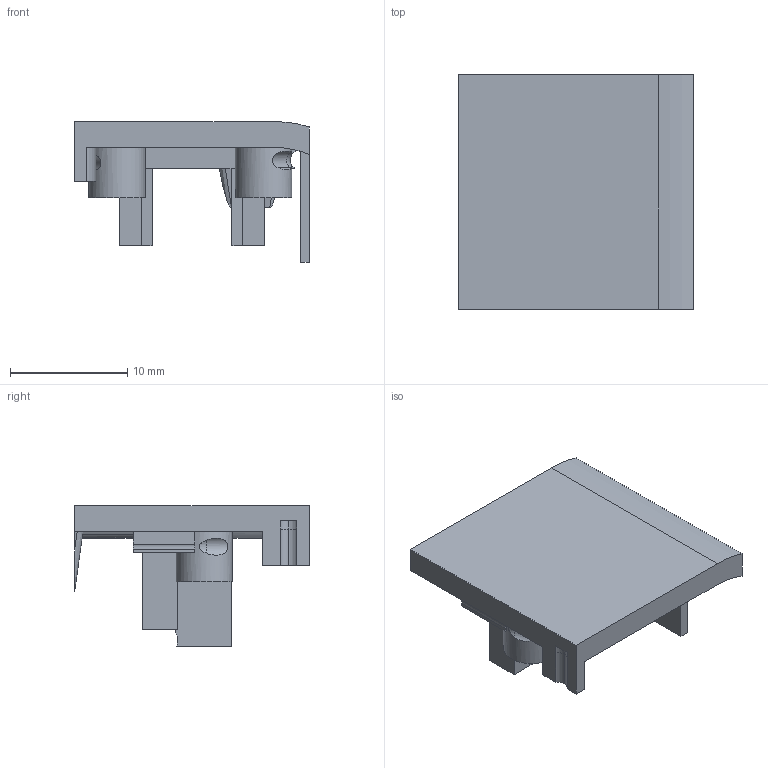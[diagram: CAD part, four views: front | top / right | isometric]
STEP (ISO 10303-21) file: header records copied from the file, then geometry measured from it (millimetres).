
FILE_DESCRIPTION(('Open CASCADE Model'),'2;1');
FILE_NAME('QF01B_REAR_ACCESS_ADAPTER_ACTUAL_SEAT_AND_WIRE_RELIEF', '2026-09-15T15:06:32',('Author'),('Open CASCADE'), 'Open CASCADE STEP processor 7.9','build123d','Unknown');
FILE_SCHEMA(('AUTOMOTIVE_DESIGN { 1 0 10303 214 1 1 1 1 }'));
Length unit declared in the file: millimetre
Products named in the file (1): QF01B_REAR_ACCESS_ADAPTER_ACTUAL_SEAT_AND_WIRE_RELIEF
Bounding box: 20 x 20 x 12 mm (x, y, z)
Volume: 1324.1 mm3; surface area: 1535.3 mm2
Topology: 1 solids, 1 shells, 87 faces, 235 edges, 153 vertices
Faces by surface type: plane 48, cylinder 28, torus 6, bspline 5
Full cylindrical faces by diameter (mm): 1.7 x4
Entity records: 7731 total; most frequent: CARTESIAN_POINT 3336, DIRECTION 723, ORIENTED_EDGE 470, PCURVE 470, DEFINITIONAL_REPRESENTATION 470, LINE 399, VECTOR 399, EDGE_CURVE 235
